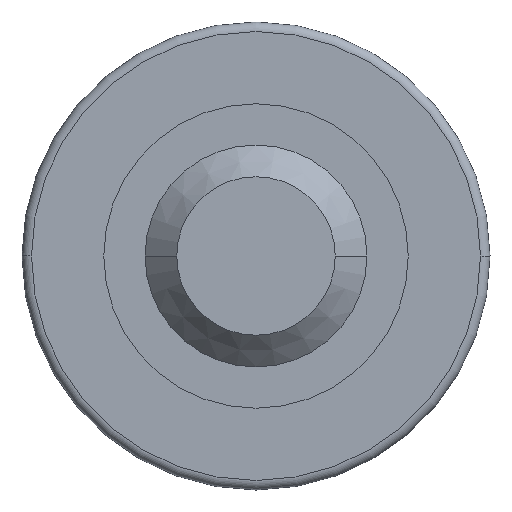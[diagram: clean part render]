
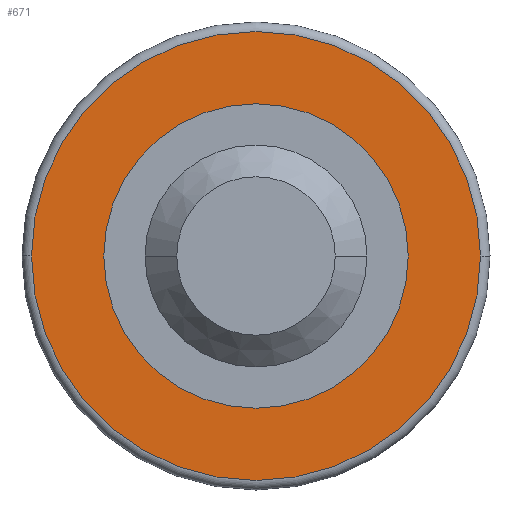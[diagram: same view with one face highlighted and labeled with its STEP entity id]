
A CAD part, left-side view. The second image highlights one B-rep face of the part: STEP entity #671.
In plain terms, the highlighted planar face has unit normal (-1, 0, 0).
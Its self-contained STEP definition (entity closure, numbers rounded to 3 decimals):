
#3 = ORIENTED_EDGE ( 'NONE', *, *, #298, .T. ) ;
#11 = DIRECTION ( 'NONE',  ( 0., 1., 0. ) ) ;
#13 = CARTESIAN_POINT ( 'NONE',  ( 17., 0., 0. ) ) ;
#23 = EDGE_CURVE ( 'NONE', #266, #244, #258, .T. ) ;
#66 = CARTESIAN_POINT ( 'NONE',  ( 17., -35.4, 0. ) ) ;
#86 = DIRECTION ( 'NONE',  ( 1., 0., 0. ) ) ;
#89 = DIRECTION ( 'NONE',  ( 1., 0., 0. ) ) ;
#94 = CIRCLE ( 'NONE', #261, 24. ) ;
#127 = PLANE ( 'NONE',  #486 ) ;
#128 = DIRECTION ( 'NONE',  ( 0., -1., 0. ) ) ;
#133 = DIRECTION ( 'NONE',  ( -1., 0., 0. ) ) ;
#135 = CARTESIAN_POINT ( 'NONE',  ( 17., -24., 0. ) ) ;
#139 = CARTESIAN_POINT ( 'NONE',  ( 17., 0., 0. ) ) ;
#173 = ORIENTED_EDGE ( 'NONE', *, *, #476, .T. ) ;
#174 = ORIENTED_EDGE ( 'NONE', *, *, #23, .T. ) ;
#175 = AXIS2_PLACEMENT_3D ( 'NONE', #479, #503, #128 ) ;
#189 = FACE_OUTER_BOUND ( 'NONE', #646, .T. ) ;
#212 = AXIS2_PLACEMENT_3D ( 'NONE', #139, #605, #566 ) ;
#244 = VERTEX_POINT ( 'NONE', #66 ) ;
#258 = CIRCLE ( 'NONE', #175, 35.4 ) ;
#261 = AXIS2_PLACEMENT_3D ( 'NONE', #13, #89, #279 ) ;
#266 = VERTEX_POINT ( 'NONE', #425 ) ;
#270 = CARTESIAN_POINT ( 'NONE',  ( 17., 0., 0. ) ) ;
#279 = DIRECTION ( 'NONE',  ( 0., 1., 0. ) ) ;
#298 = EDGE_CURVE ( 'NONE', #695, #470, #94, .T. ) ;
#354 = DIRECTION ( 'NONE',  ( 0., -1., 0. ) ) ;
#364 = CIRCLE ( 'NONE', #212, 35.4 ) ;
#391 = CARTESIAN_POINT ( 'NONE',  ( 17., 36.9, 0. ) ) ;
#425 = CARTESIAN_POINT ( 'NONE',  ( 17., 35.4, 0. ) ) ;
#446 = FACE_BOUND ( 'NONE', #526, .T. ) ;
#470 = VERTEX_POINT ( 'NONE', #135 ) ;
#476 = EDGE_CURVE ( 'NONE', #470, #695, #618, .T. ) ;
#479 = CARTESIAN_POINT ( 'NONE',  ( 17., 0., 0. ) ) ;
#486 = AXIS2_PLACEMENT_3D ( 'NONE', #391, #133, #354 ) ;
#503 = DIRECTION ( 'NONE',  ( -1., 0., 0. ) ) ;
#526 = EDGE_LOOP ( 'NONE', ( #3, #173 ) ) ;
#566 = DIRECTION ( 'NONE',  ( 0., -1., 0. ) ) ;
#605 = DIRECTION ( 'NONE',  ( -1., 0., 0. ) ) ;
#612 = EDGE_CURVE ( 'NONE', #244, #266, #364, .T. ) ;
#613 = AXIS2_PLACEMENT_3D ( 'NONE', #270, #86, #11 ) ;
#618 = CIRCLE ( 'NONE', #613, 24. ) ;
#623 = ORIENTED_EDGE ( 'NONE', *, *, #612, .T. ) ;
#646 = EDGE_LOOP ( 'NONE', ( #623, #174 ) ) ;
#648 = CARTESIAN_POINT ( 'NONE',  ( 17., 24., 0. ) ) ;
#671 = ADVANCED_FACE ( 'NONE', ( #189, #446 ), #127, .T. ) ;
#695 = VERTEX_POINT ( 'NONE', #648 ) ;
